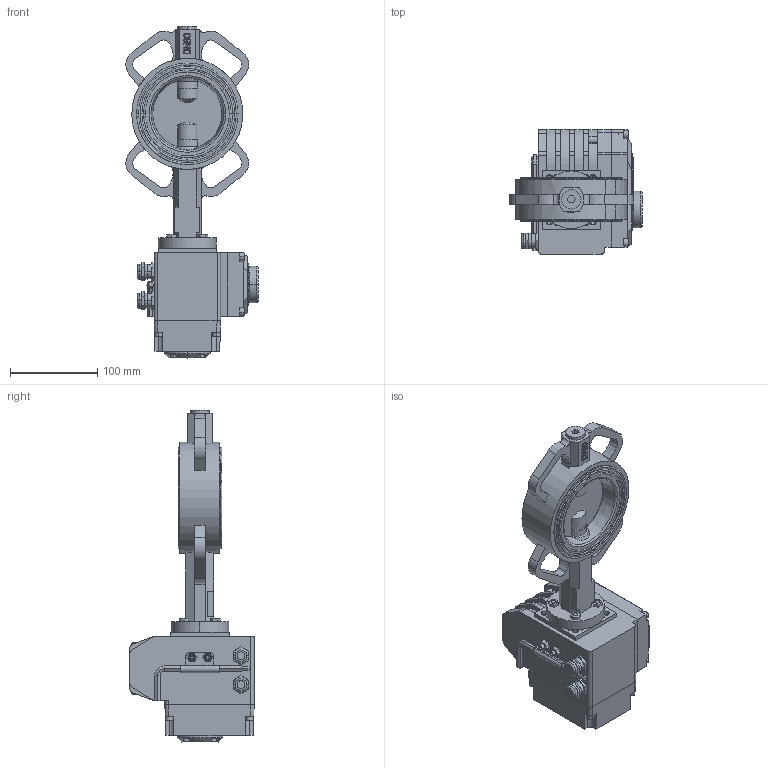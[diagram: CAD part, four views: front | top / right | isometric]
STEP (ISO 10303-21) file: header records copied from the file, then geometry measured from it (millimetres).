
FILE_DESCRIPTION((''),'2;1');
FILE_NAME('VBS_EAR_T_ASM','2025-02-22T',('AMD'),(''),'PRO/ENGINEER BY PARAMETRIC TECHNOLOGY CORPORATION, 2008020','PRO/ENGINEER BY PARAMETRIC TECHNOLOGY CORPORATION, 2008020','');
FILE_SCHEMA(('CONFIG_CONTROL_DESIGN'));
Length unit declared in the file: millimetre
Products named in the file (24): KORPUS; REZ; DISK; SHTIR_1; ZAGLUSHKA; O-RING; SHTIR_2; SHAIBA_RAZREZ; SHAIBA; KOLCO_22_GOST13943; VTULKA; MANZET_REZ; SB_ASM; B-7798-M6-20; DET_1; V-11738-M5; V-11738-M4; DET_2; KREPLENIE; KLUCH; DET_3; G-5915-M6; ELECTROPRIVOD_ASM; VBS_EAR_T_ASM
Assembly tree (43 placements, depth 3):
  VBS_EAR_T_ASM
    SB_ASM
      KORPUS
      REZ
      DISK
      SHTIR_1
      ZAGLUSHKA
      O-RING  x2
      SHTIR_2
      SHAIBA_RAZREZ
      SHAIBA  x2
      KOLCO_22_GOST13943
      VTULKA  x5
      MANZET_REZ
    B-7798-M6-20  x4
    ELECTROPRIVOD_ASM
      DET_1
      V-11738-M5  x8
      V-11738-M4  x4
      DET_2
      KREPLENIE
      KLUCH
      DET_3
      G-5915-M6  x2
Bounding box: 151.28 x 142 x 379.5 mm (x, y, z)
Volume: 1940645.6 mm3; surface area: 338681 mm2
Topology: 41 solids, 78 shells, 1633 faces, 4192 edges, 2751 vertices
Faces by surface type: plane 1044, cylinder 453, cone 98, torus 38
Entity records: 42913 total; most frequent: CARTESIAN_POINT 7991, DIRECTION 7304, ORIENTED_EDGE 6984, EDGE_CURVE 3540, VECTOR 2548, LINE 2548, AXIS2_PLACEMENT_3D 2378, VERTEX_POINT 2341
